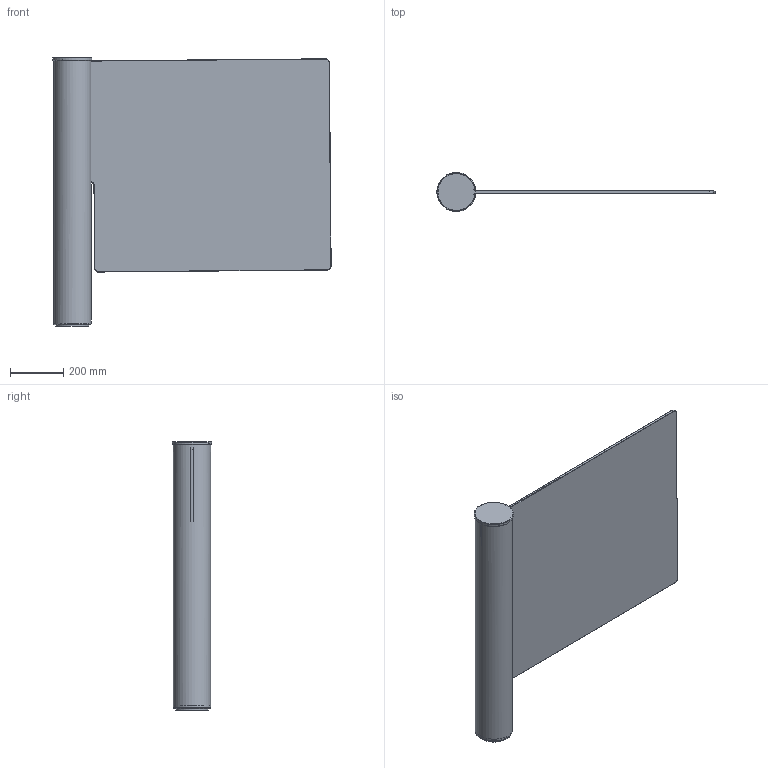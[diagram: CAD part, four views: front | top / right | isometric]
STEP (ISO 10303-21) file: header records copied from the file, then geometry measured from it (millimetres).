
FILE_DESCRIPTION(/* description */ ('Unknown'),/* implementation_level */ '2;1');
FILE_NAME(/* name */ 'WMD-06_900',/* time_stamp */ '2021-11-24T11:07:54+03:00',/* author */ ('Unknown'),/* organization */ ('Unknown'),/* preprocessor_version */ 'ST-DEVELOPER v18.1',/* originating_system */ 'Solid Edge',/* authorisation */ 'Unknown');
FILE_SCHEMA (('CONFIG_CONTROL_DESIGN'));
Length unit declared in the file: millimetre
Products named in the file (29): 栖闉罻42; WMD-06_900; WMD-06.002.00_扻豵鵨_oa_0; WMD-06.002.02_扻錪犩; WMD-06.005.00_Ïðèâîä âðàùåíèÿ_oa_1; WMD-06.006.00 昜闉趌oa_2; WMD-06.010.00_填潴朦 镫囹鸰oa_3; WMD-06.700.01_砑僗趌oa_4; 蓦屐屙螓 镫囹鸰oa_5; Ñòÿæêà 100 ìì (íåîòêðûâàþùàÿñÿ); WMD-06.016.00 Ìîòîð-ðåäóêòîð; WMD-06.017.00 Ìîòîð-ðåäóêòîð; WMD-06.013.00 Ìîäóëü âðàùåíèÿ_oa_6; WMD-06.003.00 轉螒oa_7; WMD-06.015.00 楋樏襝鍎飹膻瀖oa_8; Ýëåêòðîìàãíèò RG-T-2551 A12P_oa_9; WMD-06.007.00_栺闀闉_oa_10; WMD-06.020.00 懾譈鴀 闀蠂灚齕鴇_oa_11; WMD-06.720.00 Ïëàòà äàò÷èêà îïòè÷åñêîãî_oa_12; WMD-04.154.00 Óïîð â ñáîðå_oa_13; WMD-06.014.00 砑鳧罻; WMD-06.014.03 砑鳧罻; WMD-06.014.01 Ïëàíêà-Ïî óìîë÷àíèþ; WMD-06.000.01-01 栺樏鋋; WMD-06.000.03 扻錪犩; WMD-06.000.06 署赅; WMD-06.000.05 êîðïóñ-Ïî óìîë÷àíèþ; ﾂ竟M3x10_DIN_913_淲._ﾀ2; Çàãîòîâêà äëÿ WMD-06.000.09
Assembly tree (32 placements, depth 6):
  栖闉罻42
    WMD-06_900
      WMD-06.002.00_扻豵鵨_oa_0
        WMD-06.002.02_扻錪犩
      WMD-06.005.00_Ïðèâîä âðàùåíèÿ_oa_1
        WMD-06.006.00 昜闉趌oa_2
        WMD-06.010.00_填潴朦 镫囹鸰oa_3
          WMD-06.700.01_砑僗趌oa_4
            蓦屐屙螓 镫囹鸰oa_5
        Ñòÿæêà 100 ìì (íåîòêðûâàþùàÿñÿ)
        WMD-06.016.00 Ìîòîð-ðåäóêòîð
        WMD-06.017.00 Ìîòîð-ðåäóêòîð
      WMD-06.013.00 Ìîäóëü âðàùåíèÿ_oa_6
        WMD-06.003.00 轉螒oa_7
        WMD-06.015.00 楋樏襝鍎飹膻瀖oa_8
          Ýëåêòðîìàãíèò RG-T-2551 A12P_oa_9
        WMD-06.007.00_栺闀闉_oa_10
        WMD-06.020.00 懾譈鴀 闀蠂灚齕鴇_oa_11
          WMD-06.720.00 Ïëàòà äàò÷èêà îïòè÷åñêîãî_oa_12
        WMD-04.154.00 Óïîð â ñáîðå_oa_13
      WMD-06.014.00 砑鳧罻
        WMD-06.014.03 砑鳧罻
        WMD-06.014.01 Ïëàíêà-Ïî óìîë÷àíèþ
      WMD-06.000.01-01 栺樏鋋
      WMD-06.000.03 扻錪犩
      WMD-06.000.06 署赅
      WMD-06.000.05 êîðïóñ-Ïî óìîë÷àíèþ
      ﾂ竟M3x10_DIN_913_淲._ﾀ2  x3
      Çàãîòîâêà äëÿ WMD-06.000.09  x3
Bounding box: 1047.28 x 147 x 1011.59 mm (x, y, z)
Volume: 8430033.8 mm3; surface area: 2572497.1 mm2
Topology: 10 solids, 10 shells, 391 faces, 939 edges, 591 vertices
Faces by surface type: plane 224, cylinder 61, bspline 54, cone 52
Full cylindrical faces by diameter (mm): 2.5 x3, 3 x4, 4.5 x1, 12 x7, 60 x1, 122 x1, 123.5 x2, 128 x2, 141.5 x1, 147 x1
Entity records: 12784 total; most frequent: CARTESIAN_POINT 3975, ORIENTED_EDGE 1640, DIRECTION 1555, EDGE_CURVE 820, VERTEX_POINT 543, AXIS2_PLACEMENT_3D 519, LINE 517, VECTOR 517
